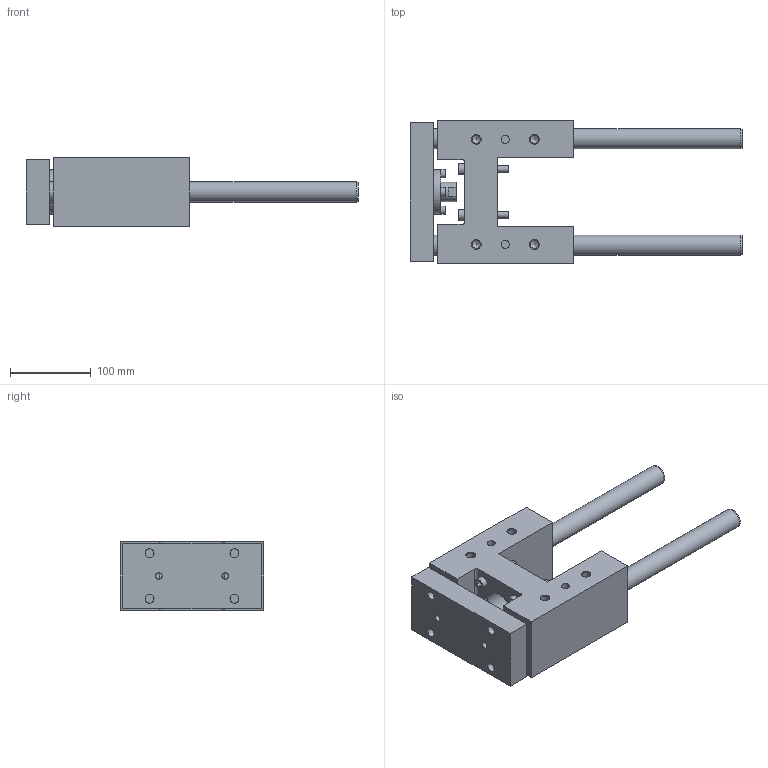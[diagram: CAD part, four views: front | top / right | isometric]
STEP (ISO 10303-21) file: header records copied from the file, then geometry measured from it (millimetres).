
FILE_DESCRIPTION( ( 'STEP AP214' ), '1' );
FILE_NAME( 'U:/Etudes/Top Solid/BIBLIO 3D AVM/TOP/PNEUMATIQUE/GUIDAGES/Type 32 (en H)/R_Renforcée/327R3_30.step', '2005-05-27T09:05:46', ( ' ' ), ( ' ' ), 'XStep 1.0', ' ', ' ' );
FILE_SCHEMA( ( 'automotive_design' ) );
Length unit declared in the file: metre
Products named in the file (2): 1; 2
Bounding box: 411 x 178 x 85 mm (x, y, z)
Volume: 2171680.3 mm3; surface area: 279898.5 mm2
Topology: 2 solids, 7 shells, 209 faces, 484 edges, 321 vertices
Faces by surface type: plane 118, cylinder 70, cone 21
Full cylindrical faces by diameter (mm): 6 x8, 6.5 x4, 8 x10, 8.376 x4, 9 x4, 10 x6, 10.106 x8, 11 x4, 13 x4, 14.376 x2, 18 x4, 24 x1, 25 x4, 26 x1, 34 x1, 37 x1, 45 x1, 55 x1
Entity records: 7089 total; most frequent: CARTESIAN_POINT 1103, DIRECTION 900, ORIENTED_EDGE 696, EDGE_LOOP 358, AXIS2_PLACEMENT_3D 349, EDGE_CURVE 348, VERTEX_POINT 280, FACE_OUTER_BOUND 277
